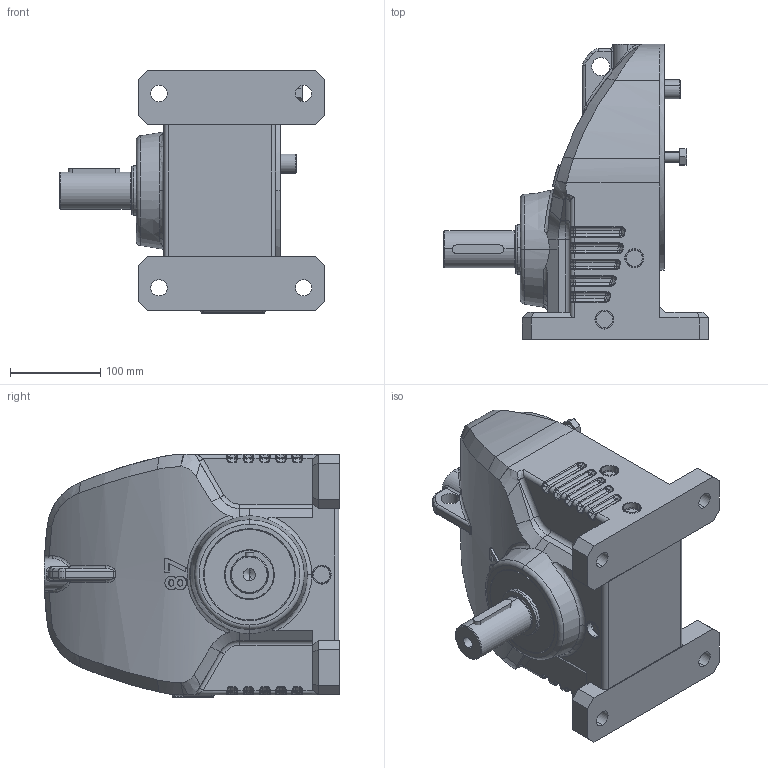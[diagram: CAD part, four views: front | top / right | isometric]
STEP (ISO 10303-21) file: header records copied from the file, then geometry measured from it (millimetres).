
FILE_DESCRIPTION (( 'STEP AP203' ), '1' );
FILE_NAME ('RX087HF-143TC.STEP', '2015-03-16T05:47:44', ( 'user' ), ( '' ), 'SwSTEP 2.0', 'SolidWorks 2012', '' );
FILE_SCHEMA (( 'CONFIG_CONTROL_DESIGN' ));
Length unit declared in the file: millimetre
Products named in the file (27): PKD3_8057; PCA040_JIS B 2804 Shaft use 40; PBA6308_SKF - 6308 - 10,DE,NC,10_68; PCB100_PCB100; PSS055100121; PBA6309_SKF - 6309 - 10,DE,NC,10_68; JKGB09799L_JKGB09799L; 087法蘭入力組合143T_16; PKD0505015; PCA016_PCA016; P103_JKGA1622R; PTBA12040; PWS12; PSS040055081; PBA6008; PTAA08030; KNGH143Txx; KFGG143T; JHGA08701; PJB04; PCA045; PKD1208025; KEGX087; JCHX087; RX087HF-143TC; JSPC040050005A
Assembly tree (23 placements, depth 3):
  PTBA12040
  PWS12
  PSS040055081
  PBA6008
  PTAA08030
Bounding box: 293 x 327.01 x 269 mm (x, y, z)
Volume: 3592753.7 mm3; surface area: 805088.9 mm2
Topology: 22 solids, 22 shells, 1228 faces, 3195 edges, 1946 vertices
Faces by surface type: cylinder 399, plane 299, torus 200, bspline 135, cone 123, sphere 72
Entity records: 48394 total; most frequent: CARTESIAN_POINT 18766, ORIENTED_EDGE 5794, DIRECTION 5625, EDGE_CURVE 2897, AXIS2_PLACEMENT_3D 2360, VERTEX_POINT 1786, CIRCLE 1330, EDGE_LOOP 1239
